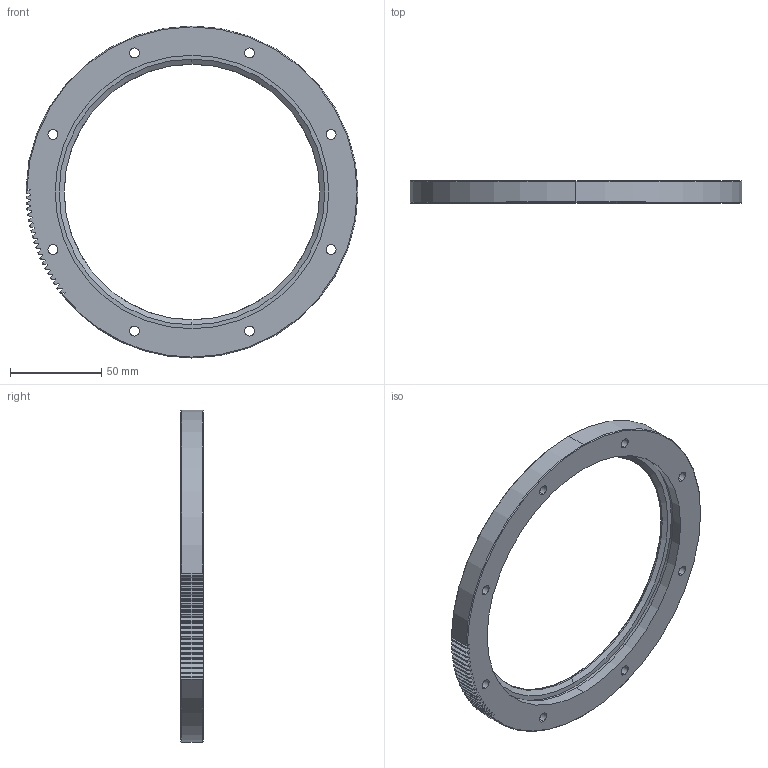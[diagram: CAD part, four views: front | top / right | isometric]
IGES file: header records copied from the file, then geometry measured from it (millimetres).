
Start section: 3D InterOp IGES (v. 2020 1.0.1), Spatial Corp. Copyright (c) 1999-2017.
Global section: file name: ris_182_r360_p.igs; native system: Spatial Corp.; preprocessor: 3D InterOp ACIS/IGES; author: TraceParts; organization: TraceParts S.A.; date: 20220624.060244; units: millimetre
Bounding box: 182 x 12.25 x 182 mm (x, y, z)
Surface area: 35452.4 mm2 (no closed solid volume)
Topology: 0 solids, 0 shells, 207 faces, 1154 edges, 1154 vertices
Faces by surface type: extrusion 114, revolution 93
